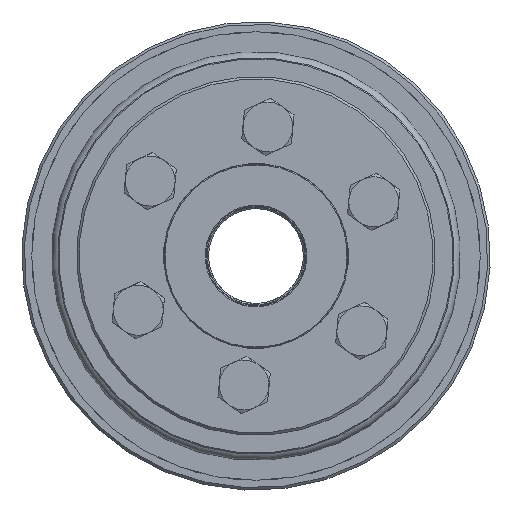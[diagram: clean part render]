
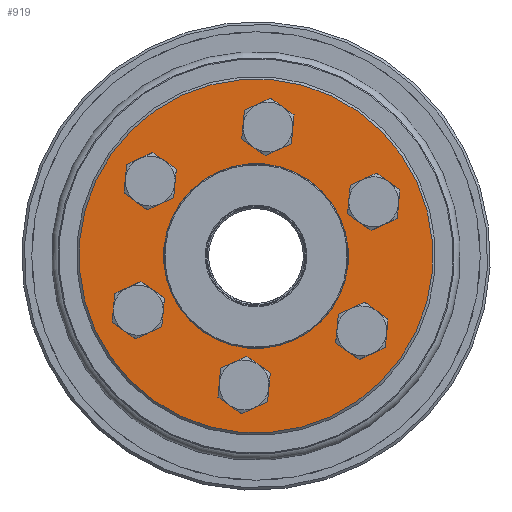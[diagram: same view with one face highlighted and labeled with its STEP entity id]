
A CAD part, left-side view. The second image highlights one B-rep face of the part: STEP entity #919.
In plain terms, the highlighted planar face has unit normal (-1, 0, 0).
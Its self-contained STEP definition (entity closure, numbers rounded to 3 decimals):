
#919 = ADVANCED_FACE( 'NONE', ( #1819, #1820, #1821, #1822, #1823, #1824, #1825, #1826 ), #1827, .F. );
#1819 = FACE_OUTER_BOUND( '', #2782, .T. );
#1820 = FACE_BOUND( '', #2783, .T. );
#1821 = FACE_BOUND( '', #2784, .T. );
#1822 = FACE_BOUND( '', #2785, .T. );
#1823 = FACE_BOUND( '', #2786, .T. );
#1824 = FACE_BOUND( '', #2787, .T. );
#1825 = FACE_BOUND( '', #2788, .T. );
#1826 = FACE_BOUND( '', #2789, .T. );
#1827 = PLANE( '', #2790 );
#2782 = EDGE_LOOP( '', ( #4047 ) );
#2783 = EDGE_LOOP( '', ( #4048 ) );
#2784 = EDGE_LOOP( '', ( #4049 ) );
#2785 = EDGE_LOOP( '', ( #4050 ) );
#2786 = EDGE_LOOP( '', ( #4051 ) );
#2787 = EDGE_LOOP( '', ( #4052 ) );
#2788 = EDGE_LOOP( '', ( #4053 ) );
#2789 = EDGE_LOOP( '', ( #4054 ) );
#2790 = AXIS2_PLACEMENT_3D( '', #4055, #4056, #4057 );
#4047 = ORIENTED_EDGE( '', *, *, #4648, .T. );
#4048 = ORIENTED_EDGE( '', *, *, #4875, .T. );
#4049 = ORIENTED_EDGE( '', *, *, #5012, .T. );
#4050 = ORIENTED_EDGE( '', *, *, #4949, .T. );
#4051 = ORIENTED_EDGE( '', *, *, #4819, .T. );
#4052 = ORIENTED_EDGE( '', *, *, #4832, .T. );
#4053 = ORIENTED_EDGE( '', *, *, #4709, .T. );
#4054 = ORIENTED_EDGE( '', *, *, #4841, .F. );
#4055 = CARTESIAN_POINT( '', ( 0., 18.5, 0. ) );
#4056 = DIRECTION( '', ( 1., 0., 0. ) );
#4057 = DIRECTION( '', ( 0., 1., 0. ) );
#4648 = EDGE_CURVE( 'NONE', #5207, #5207, #5208, .T. );
#4709 = EDGE_CURVE( 'NONE', #5309, #5309, #5310, .T. );
#4819 = EDGE_CURVE( 'NONE', #5482, #5482, #5483, .T. );
#4832 = EDGE_CURVE( 'NONE', #5502, #5502, #5503, .T. );
#4841 = EDGE_CURVE( 'NONE', #5515, #5515, #5516, .T. );
#4875 = EDGE_CURVE( 'NONE', #5567, #5567, #5568, .T. );
#4949 = EDGE_CURVE( 'NONE', #5672, #5672, #5673, .T. );
#5012 = EDGE_CURVE( 'NONE', #5760, #5760, #5761, .T. );
#5207 = VERTEX_POINT( '', #5999 );
#5208 = CIRCLE( '', #6000, 35.5 );
#5309 = VERTEX_POINT( '', #6310 );
#5310 = CIRCLE( '', #6311, 3.3 );
#5482 = VERTEX_POINT( '', #6659 );
#5483 = CIRCLE( '', #6660, 3.3 );
#5502 = VERTEX_POINT( '', #6685 );
#5503 = CIRCLE( '', #6686, 3.3 );
#5515 = VERTEX_POINT( '', #6698 );
#5516 = CIRCLE( '', #6699, 18.5 );
#5567 = VERTEX_POINT( '', #6765 );
#5568 = CIRCLE( '', #6766, 3.3 );
#5672 = VERTEX_POINT( '', #6876 );
#5673 = CIRCLE( '', #6877, 3.3 );
#5760 = VERTEX_POINT( '', #6976 );
#5761 = CIRCLE( '', #6977, 3.3 );
#5999 = CARTESIAN_POINT( '', ( 0., 0., -35.5 ) );
#6000 = AXIS2_PLACEMENT_3D( '', #7294, #7295, #7296 );
#6310 = CARTESIAN_POINT( '', ( 0., 26., -3.3 ) );
#6311 = AXIS2_PLACEMENT_3D( '', #7362, #7363, #7364 );
#6659 = CARTESIAN_POINT( '', ( 0., -13., -25.817 ) );
#6660 = AXIS2_PLACEMENT_3D( '', #7526, #7527, #7528 );
#6685 = CARTESIAN_POINT( '', ( 0., 13., -25.817 ) );
#6686 = AXIS2_PLACEMENT_3D( '', #7547, #7548, #7549 );
#6698 = CARTESIAN_POINT( '', ( 0., 0., 18.5 ) );
#6699 = AXIS2_PLACEMENT_3D( '', #7568, #7569, #7570 );
#6765 = CARTESIAN_POINT( '', ( 0., 13., 19.217 ) );
#6766 = AXIS2_PLACEMENT_3D( '', #7616, #7617, #7618 );
#6876 = CARTESIAN_POINT( '', ( 0., -26., -3.3 ) );
#6877 = AXIS2_PLACEMENT_3D( '', #7733, #7734, #7735 );
#6976 = CARTESIAN_POINT( '', ( 0., -13., 19.217 ) );
#6977 = AXIS2_PLACEMENT_3D( '', #7823, #7824, #7825 );
#7294 = CARTESIAN_POINT( '', ( 0., 0., 0. ) );
#7295 = DIRECTION( '', ( -1., 0., 0. ) );
#7296 = DIRECTION( '', ( 0., 0., -1. ) );
#7362 = CARTESIAN_POINT( '', ( 0., 26., 0. ) );
#7363 = DIRECTION( '', ( 1., 0., 0. ) );
#7364 = DIRECTION( '', ( 0., 0., -1. ) );
#7526 = CARTESIAN_POINT( '', ( 0., -13., -22.517 ) );
#7527 = DIRECTION( '', ( 1., 0., 0. ) );
#7528 = DIRECTION( '', ( 0., 0., -1. ) );
#7547 = CARTESIAN_POINT( '', ( 0., 13., -22.517 ) );
#7548 = DIRECTION( '', ( 1., 0., 0. ) );
#7549 = DIRECTION( '', ( 0., 0., -1. ) );
#7568 = CARTESIAN_POINT( '', ( 0., 0., 0. ) );
#7569 = DIRECTION( '', ( -1., 0., 0. ) );
#7570 = DIRECTION( '', ( 0., 0., 1. ) );
#7616 = CARTESIAN_POINT( '', ( 0., 13., 22.517 ) );
#7617 = DIRECTION( '', ( 1., 0., 0. ) );
#7618 = DIRECTION( '', ( 0., 0., -1. ) );
#7733 = CARTESIAN_POINT( '', ( 0., -26., 0. ) );
#7734 = DIRECTION( '', ( 1., 0., 0. ) );
#7735 = DIRECTION( '', ( 0., 0., -1. ) );
#7823 = CARTESIAN_POINT( '', ( 0., -13., 22.517 ) );
#7824 = DIRECTION( '', ( 1., 0., 0. ) );
#7825 = DIRECTION( '', ( 0., 0., -1. ) );
